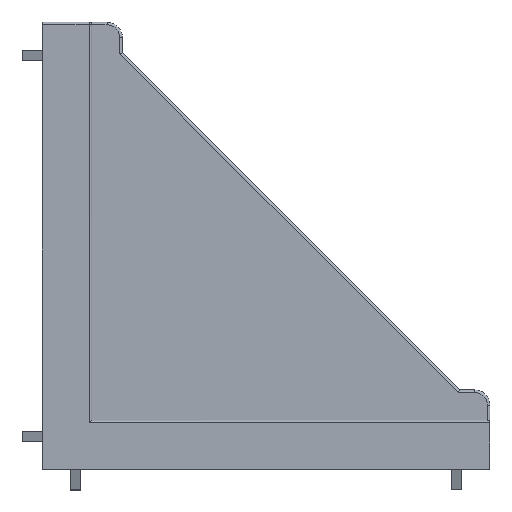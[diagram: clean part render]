
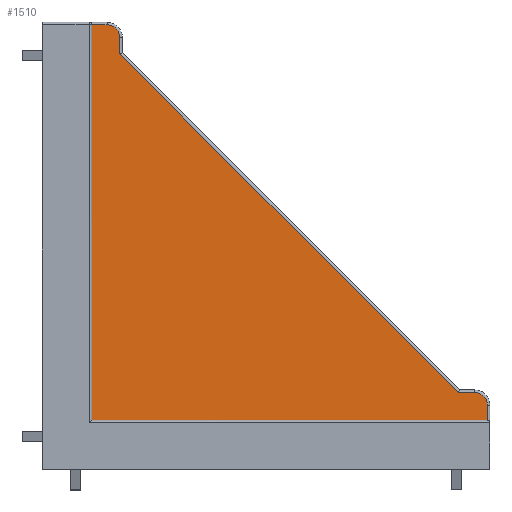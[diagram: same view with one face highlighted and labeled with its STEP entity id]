
A CAD part, top view. The second image highlights one B-rep face of the part: STEP entity #1510.
In plain terms, the highlighted planar face has unit normal (0, 0, 1).
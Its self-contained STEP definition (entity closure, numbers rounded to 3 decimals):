
#6 = VERTEX_POINT ( 'NONE', #2790 ) ;
#37 = CARTESIAN_POINT ( 'NONE',  ( 9.7, 87.5, -16. ) ) ;
#152 = LINE ( 'NONE', #3707, #1803 ) ;
#237 = VERTEX_POINT ( 'NONE', #1844 ) ;
#314 = EDGE_CURVE ( 'NONE', #3277, #3619, #665, .T. ) ;
#330 = CARTESIAN_POINT ( 'NONE',  ( 0., 0., -16. ) ) ;
#350 = LINE ( 'NONE', #3893, #2794 ) ;
#353 = FACE_OUTER_BOUND ( 'NONE', #1736, .T. ) ;
#356 = DIRECTION ( 'NONE',  ( -1., 0., 0. ) ) ;
#363 = ORIENTED_EDGE ( 'NONE', *, *, #1047, .F. ) ;
#400 = CARTESIAN_POINT ( 'NONE',  ( 15.2, 0., -16. ) ) ;
#454 = LINE ( 'NONE', #37, #2100 ) ;
#503 = VERTEX_POINT ( 'NONE', #3768 ) ;
#525 = DIRECTION ( 'NONE',  ( 1., 0., 0. ) ) ;
#528 = EDGE_CURVE ( 'NONE', #1998, #237, #3708, .T. ) ;
#562 = AXIS2_PLACEMENT_3D ( 'NONE', #330, #3876, #3513 ) ;
#595 = CARTESIAN_POINT ( 'NONE',  ( 81.793, 15.2, -16. ) ) ;
#665 = CIRCLE ( 'NONE', #1800, 2.5 ) ;
#760 = VERTEX_POINT ( 'NONE', #595 ) ;
#789 = CARTESIAN_POINT ( 'NONE',  ( 88., 9.7, -16. ) ) ;
#832 = LINE ( 'NONE', #400, #3943 ) ;
#954 = DIRECTION ( 'NONE',  ( 0., 0., 1. ) ) ;
#971 = AXIS2_PLACEMENT_3D ( 'NONE', #1383, #954, #525 ) ;
#1037 = EDGE_CURVE ( 'NONE', #237, #6, #454, .T. ) ;
#1047 = EDGE_CURVE ( 'NONE', #2075, #6, #350, .T. ) ;
#1178 = ORIENTED_EDGE ( 'NONE', *, *, #1183, .T. ) ;
#1183 = EDGE_CURVE ( 'NONE', #760, #503, #152, .T. ) ;
#1299 = ORIENTED_EDGE ( 'NONE', *, *, #528, .T. ) ;
#1383 = CARTESIAN_POINT ( 'NONE',  ( 12.7, 85., -16. ) ) ;
#1510 = ADVANCED_FACE ( 'NONE', ( #353 ), #2042, .T. ) ;
#1584 = EDGE_CURVE ( 'NONE', #3141, #2075, #2577, .T. ) ;
#1616 = ORIENTED_EDGE ( 'NONE', *, *, #314, .T. ) ;
#1730 = ORIENTED_EDGE ( 'NONE', *, *, #2311, .T. ) ;
#1736 = EDGE_LOOP ( 'NONE', ( #1299, #2478, #363, #1768, #1730, #1616, #2543, #1178, #2588 ) ) ;
#1740 = EDGE_CURVE ( 'NONE', #503, #1998, #832, .T. ) ;
#1768 = ORIENTED_EDGE ( 'NONE', *, *, #1584, .F. ) ;
#1800 = AXIS2_PLACEMENT_3D ( 'NONE', #2688, #2290, #1863 ) ;
#1803 = VECTOR ( 'NONE', #3330, 1000. ) ;
#1844 = CARTESIAN_POINT ( 'NONE',  ( 12.7, 87.5, -16. ) ) ;
#1863 = DIRECTION ( 'NONE',  ( 1., 0., 0. ) ) ;
#1998 = VERTEX_POINT ( 'NONE', #3611 ) ;
#2042 = PLANE ( 'NONE',  #562 ) ;
#2075 = VERTEX_POINT ( 'NONE', #3548 ) ;
#2100 = VECTOR ( 'NONE', #3610, 1000. ) ;
#2290 = DIRECTION ( 'NONE',  ( 0., 0., 1. ) ) ;
#2311 = EDGE_CURVE ( 'NONE', #3141, #3277, #3209, .T. ) ;
#2330 = EDGE_CURVE ( 'NONE', #3619, #760, #3502, .T. ) ;
#2352 = DIRECTION ( 'NONE',  ( -1., 0., 0. ) ) ;
#2452 = DIRECTION ( 'NONE',  ( 0., 1., 0. ) ) ;
#2478 = ORIENTED_EDGE ( 'NONE', *, *, #1037, .T. ) ;
#2543 = ORIENTED_EDGE ( 'NONE', *, *, #2330, .T. ) ;
#2577 = LINE ( 'NONE', #789, #3062 ) ;
#2588 = ORIENTED_EDGE ( 'NONE', *, *, #1740, .T. ) ;
#2625 = CARTESIAN_POINT ( 'NONE',  ( 87.5, 12.7, -16. ) ) ;
#2688 = CARTESIAN_POINT ( 'NONE',  ( 85., 12.7, -16. ) ) ;
#2736 = CARTESIAN_POINT ( 'NONE',  ( 0., 15.2, -16. ) ) ;
#2771 = CARTESIAN_POINT ( 'NONE',  ( 87.5, 9.7, -16. ) ) ;
#2789 = CARTESIAN_POINT ( 'NONE',  ( 85., 15.2, -16. ) ) ;
#2790 = CARTESIAN_POINT ( 'NONE',  ( 9.7, 87.5, -16. ) ) ;
#2794 = VECTOR ( 'NONE', #3530, 1000. ) ;
#2825 = CARTESIAN_POINT ( 'NONE',  ( 87.5, 12.7, -16. ) ) ;
#3062 = VECTOR ( 'NONE', #356, 1000. ) ;
#3141 = VERTEX_POINT ( 'NONE', #2771 ) ;
#3209 = LINE ( 'NONE', #2825, #3444 ) ;
#3277 = VERTEX_POINT ( 'NONE', #2625 ) ;
#3330 = DIRECTION ( 'NONE',  ( -0.707, 0.707, 0. ) ) ;
#3444 = VECTOR ( 'NONE', #2452, 1000. ) ;
#3502 = LINE ( 'NONE', #2736, #3908 ) ;
#3513 = DIRECTION ( 'NONE',  ( 1., 0., 0. ) ) ;
#3530 = DIRECTION ( 'NONE',  ( 0., 1., 0. ) ) ;
#3548 = CARTESIAN_POINT ( 'NONE',  ( 9.7, 9.7, -16. ) ) ;
#3610 = DIRECTION ( 'NONE',  ( -1., 0., 0. ) ) ;
#3611 = CARTESIAN_POINT ( 'NONE',  ( 15.2, 85., -16. ) ) ;
#3619 = VERTEX_POINT ( 'NONE', #2789 ) ;
#3707 = CARTESIAN_POINT ( 'NONE',  ( 48.496, 48.496, -16. ) ) ;
#3708 = CIRCLE ( 'NONE', #971, 2.5 ) ;
#3768 = CARTESIAN_POINT ( 'NONE',  ( 15.2, 81.793, -16. ) ) ;
#3876 = DIRECTION ( 'NONE',  ( 0., 0., 1. ) ) ;
#3893 = CARTESIAN_POINT ( 'NONE',  ( 9.7, 9.7, -16. ) ) ;
#3908 = VECTOR ( 'NONE', #2352, 1000. ) ;
#3942 = DIRECTION ( 'NONE',  ( 0., 1., 0. ) ) ;
#3943 = VECTOR ( 'NONE', #3942, 1000. ) ;
